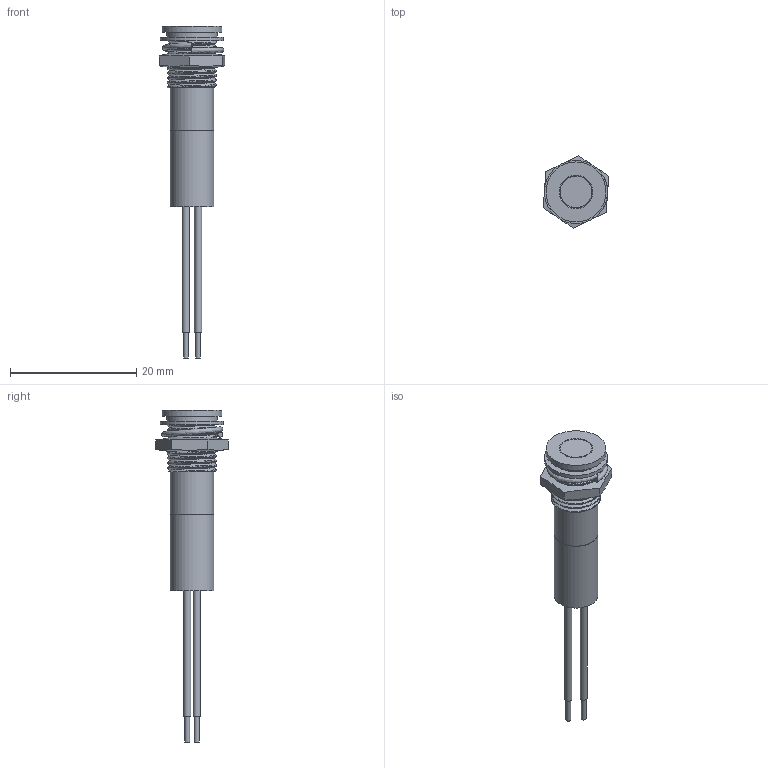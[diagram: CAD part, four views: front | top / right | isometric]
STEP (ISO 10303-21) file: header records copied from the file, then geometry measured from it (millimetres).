
FILE_DESCRIPTION( ( 'Unknown' ), '1' );
FILE_NAME( 'D:/My Documents/Q series 3D files/Q8F3CXXR.stp', 'Unknown', ( 'Unknown' ), ( 'Unknown' ), 'PSStep 15.0.49', 'Unknown', ' ' );
FILE_SCHEMA( ( 'AUTOMOTIVE_DESIGN { 1 0 10303 214 1 1 1 1 }' ) );
Length unit declared in the file: millimetre
Products named in the file (9): Assem1; 14-0140; 13-0036; 21-0026; wire-red short; wire-black-short; 34-0085; 5mmLED-flat-short; 26-0048
Assembly tree (8 placements, depth 2):
  Assem1
    14-0140
    13-0036
    21-0026
    wire-red short
    wire-black-short
    34-0085
    5mmLED-flat-short
    26-0048
Bounding box: 10.38 x 11.52 x 52.6 mm (x, y, z)
Volume: 988.8 mm3; surface area: 2413.6 mm2
Topology: 8 solids, 8 shells, 121 faces, 282 edges, 189 vertices
Faces by surface type: plane 70, cylinder 31, cone 11, bspline 8, torus 1
Full cylindrical faces by diameter (mm): 0.75 x4, 1 x2, 1.15 x2, 1.25 x2, 5 x1, 5.1 x1, 5.9 x1, 6 x1, 6.9 x2, 7.8 x1, 8 x1, 9.5 x1, 10 x1
Entity records: 14296 total; most frequent: CARTESIAN_POINT 10606, DIRECTION 527, ORIENTED_EDGE 488, EDGE_CURVE 244, AXIS2_PLACEMENT_3D 214, VERTEX_POINT 178, EDGE_LOOP 170, FACE_OUTER_BOUND 145
